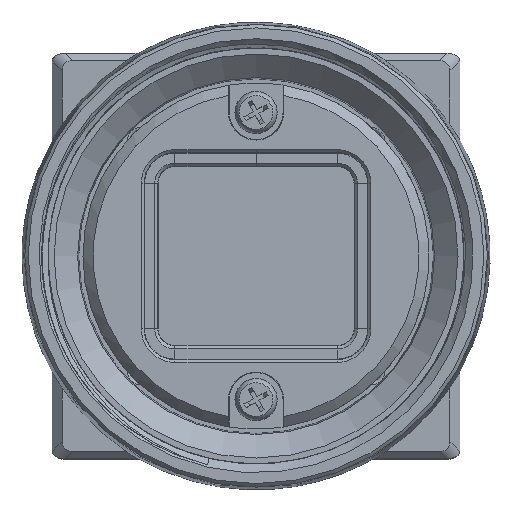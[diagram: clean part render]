
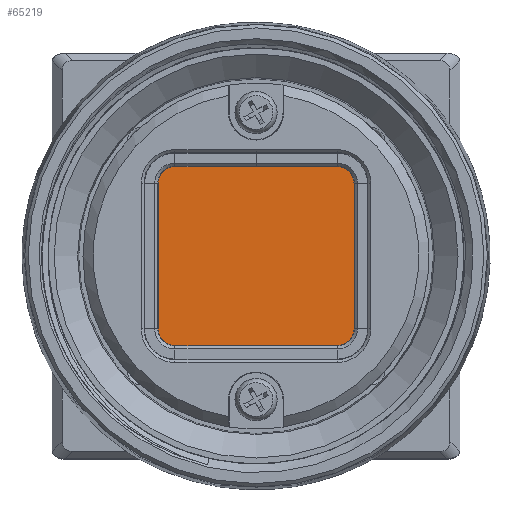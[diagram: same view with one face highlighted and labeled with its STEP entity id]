
A CAD part, top view. The second image highlights one B-rep face of the part: STEP entity #65219.
In plain terms, the highlighted planar face has unit normal (0, 0, 1).
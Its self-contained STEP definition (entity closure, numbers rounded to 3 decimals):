
#2049 = CARTESIAN_POINT ( 'NONE',  ( 0., 0., 6. ) ) ;
#4016 = AXIS2_PLACEMENT_3D ( 'NONE', #2049, #79446, #107886 ) ;
#4839 = VERTEX_POINT ( 'NONE', #5985 ) ;
#5109 = LINE ( 'NONE', #114470, #6677 ) ;
#5985 = CARTESIAN_POINT ( 'NONE',  ( 7., 7., 6. ) ) ;
#6677 = VECTOR ( 'NONE', #45158, 1000. ) ;
#15383 = EDGE_CURVE ( 'NONE', #40318, #98750, #37213, .T. ) ;
#32458 = VERTEX_POINT ( 'NONE', #124926 ) ;
#35128 = ORIENTED_EDGE ( 'NONE', *, *, #15383, .T. ) ;
#36882 = ORIENTED_EDGE ( 'NONE', *, *, #67403, .T. ) ;
#37213 = LINE ( 'NONE', #73844, #114816 ) ;
#38997 = CARTESIAN_POINT ( 'NONE',  ( -7., 7., 6. ) ) ;
#40318 = VERTEX_POINT ( 'NONE', #38997 ) ;
#45158 = DIRECTION ( 'NONE',  ( 0., 1., 0. ) ) ;
#46293 = ORIENTED_EDGE ( 'NONE', *, *, #117430, .T. ) ;
#52292 = FACE_OUTER_BOUND ( 'NONE', #115562, .T. ) ;
#55840 = DIRECTION ( 'NONE',  ( -1., 0., 0. ) ) ;
#59787 = PLANE ( 'NONE',  #4016 ) ;
#65219 = ADVANCED_FACE ( 'NONE', ( #52292 ), #59787, .F. ) ;
#67403 = EDGE_CURVE ( 'NONE', #98750, #32458, #123457, .T. ) ;
#72624 = CARTESIAN_POINT ( 'NONE',  ( -7., -7., 6. ) ) ;
#73844 = CARTESIAN_POINT ( 'NONE',  ( -7., -7., 6. ) ) ;
#77910 = VECTOR ( 'NONE', #110054, 1000. ) ;
#78935 = ORIENTED_EDGE ( 'NONE', *, *, #81877, .T. ) ;
#79194 = VECTOR ( 'NONE', #55840, 1000. ) ;
#79446 = DIRECTION ( 'NONE',  ( 0., 0., -1. ) ) ;
#81877 = EDGE_CURVE ( 'NONE', #4839, #40318, #104975, .T. ) ;
#82333 = DIRECTION ( 'NONE',  ( 0., -1., 0. ) ) ;
#98750 = VERTEX_POINT ( 'NONE', #72624 ) ;
#102694 = CARTESIAN_POINT ( 'NONE',  ( -7., 7., 6. ) ) ;
#104975 = LINE ( 'NONE', #102694, #79194 ) ;
#107886 = DIRECTION ( 'NONE',  ( -1., 0., 0. ) ) ;
#110054 = DIRECTION ( 'NONE',  ( 1., 0., 0. ) ) ;
#114470 = CARTESIAN_POINT ( 'NONE',  ( 7., -7., 6. ) ) ;
#114816 = VECTOR ( 'NONE', #82333, 1000. ) ;
#115562 = EDGE_LOOP ( 'NONE', ( #46293, #78935, #35128, #36882 ) ) ;
#117430 = EDGE_CURVE ( 'NONE', #32458, #4839, #5109, .T. ) ;
#119441 = CARTESIAN_POINT ( 'NONE',  ( -7., -7., 6. ) ) ;
#123457 = LINE ( 'NONE', #119441, #77910 ) ;
#124926 = CARTESIAN_POINT ( 'NONE',  ( 7., -7., 6. ) ) ;
